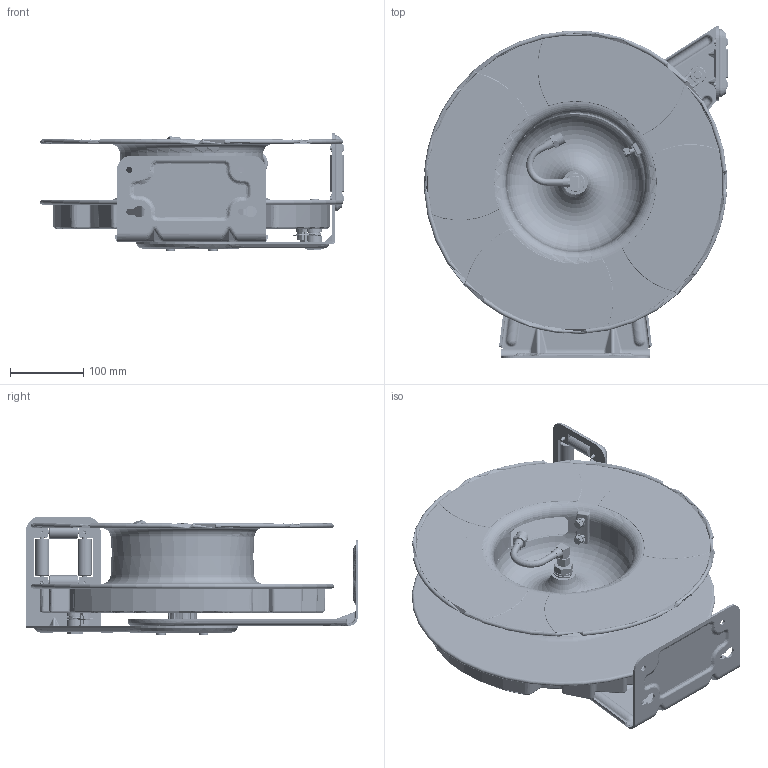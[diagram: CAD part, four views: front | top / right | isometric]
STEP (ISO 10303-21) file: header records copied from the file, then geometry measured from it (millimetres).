
FILE_DESCRIPTION((''),'2;1');
FILE_NAME('RT650-OLP10__ASM','2019-12-02T',('Joe.Hilger'),(''),'CREO PARAMETRIC BY PTC INC, 2016380','CREO PARAMETRIC BY PTC INC, 2016380','');
FILE_SCHEMA(('CONFIG_CONTROL_DESIGN'));
Length unit declared in the file: inch
Products named in the file (53): 261629; S52-119; 600849_ASM; 261622; 600833_ASM; 261631; 262481; 262482; 262483; 117704; 117703; 602416_ASM; S128-82; 261617; 261618; 261616; 1-114901-2; S140-6; 600823_ASM; S76-108; 600826-X_ASM; 261650-2; 263140; 263147-33; 263149; S128-76; 602800_ASM; 260029-2; S128-77; 602798-33_ASM; 263143; 263142; S505-010; 600828_ASM; 300034; 300031; 3-117440; 261650-1; 300038; 300065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
Assembly tree (72 placements, depth 5):
  RT650-OLP10__ASM
    600833_ASM
      600849_ASM
        261629
        S52-119  x4
      261622
    600826-X_ASM
      261631
      602416_ASM
        262481
        262482  x2
        262483  x2
        117704  x2
        117703  x2
      S128-82  x4
      600823_ASM
        261617
        261618
        261616
        1-114901-2
        S140-6
      S76-108
    261650-2  x4
    600828_ASM
      263140
      602798-33_ASM
        263147-33
        602800_ASM
          263149
          S128-76  x2
        260029-2
        S128-77
      263143
      263142
      S505-010  x6
    300034
    300031
    3-117440
    261650-1  x2
    600886_ASM
      400115_ASM
        300038
        300065
        300113
        300114
        300115
      600907_ASM
        602043_ASM
          261674
          240140
        117533
        904217
        S327-8
Bounding box: 414.73 x 452.55 x 161.71 mm (x, y, z)
Volume: 2487286.8 mm3; surface area: 2036836.7 mm2
Topology: 61 solids, 68 shells, 12037 faces, 32175 edges, 20735 vertices
Faces by surface type: plane 8818, bspline 1115, cylinder 995, torus 572, cone 402, sphere 80, extrusion 49, revolution 6
Entity records: 438747 total; most frequent: CARTESIAN_POINT 150684, ORIENTED_EDGE 62842, DIRECTION 54092, EDGE_CURVE 31433, VECTOR 25008, LINE 24959, VERTEX_POINT 20317, AXIS2_PLACEMENT_3D 14539
